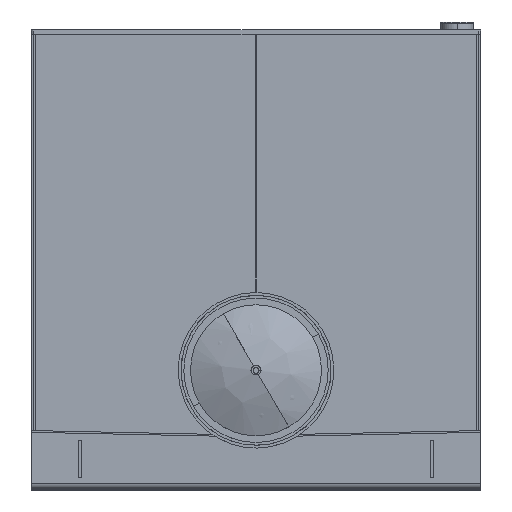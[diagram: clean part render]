
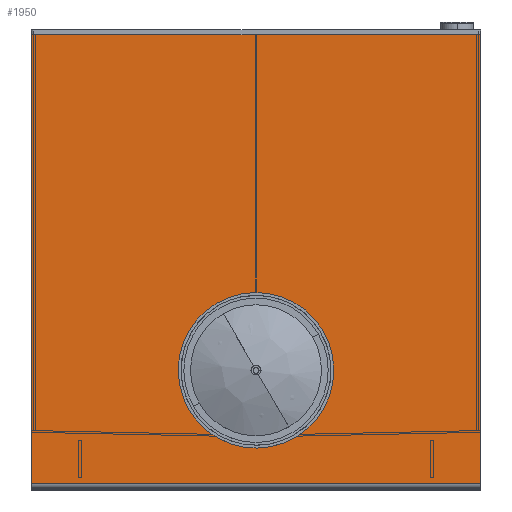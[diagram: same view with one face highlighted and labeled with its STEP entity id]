
A CAD part, top view. The second image highlights one B-rep face of the part: STEP entity #1950.
In plain terms, the highlighted planar face has unit normal (0, 0, 1) as drawn and (-1, 0, 0) by its records, which use the part's own axes.
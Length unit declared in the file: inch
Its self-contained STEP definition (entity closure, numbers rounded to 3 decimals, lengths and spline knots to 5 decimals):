
#41 = FACE_BOUND ( 'NONE', #926, .T. ) ;
#143 = AXIS2_PLACEMENT_3D ( 'NONE', #3279, #8093, #3970 ) ;
#203 = DIRECTION ( 'NONE',  ( -1., 0., 0. ) ) ;
#325 = AXIS2_PLACEMENT_3D ( 'NONE', #8297, #203, #8458 ) ;
#336 = VECTOR ( 'NONE', #6228, 39.37008 ) ;
#371 = EDGE_CURVE ( 'NONE', #4403, #1902, #3619, .T. ) ;
#497 = EDGE_CURVE ( 'NONE', #4477, #1902, #1436, .T. ) ;
#600 = DIRECTION ( 'NONE',  ( 0., 0., 1. ) ) ;
#856 = EDGE_CURVE ( 'NONE', #5472, #4477, #1524, .T. ) ;
#926 = EDGE_LOOP ( 'NONE', ( #3655, #1487 ) ) ;
#976 = AXIS2_PLACEMENT_3D ( 'NONE', #8072, #8160, #600 ) ;
#988 = FACE_OUTER_BOUND ( 'NONE', #2151, .T. ) ;
#1375 = ORIENTED_EDGE ( 'NONE', *, *, #856, .T. ) ;
#1436 = LINE ( 'NONE', #5129, #2176 ) ;
#1487 = ORIENTED_EDGE ( 'NONE', *, *, #4849, .F. ) ;
#1524 = LINE ( 'NONE', #2735, #336 ) ;
#1902 = VERTEX_POINT ( 'NONE', #6450 ) ;
#1941 = VECTOR ( 'NONE', #4350, 39.37008 ) ;
#1950 = ADVANCED_FACE ( 'NONE', ( #41, #988 ), #7384, .F. ) ;
#2151 = EDGE_LOOP ( 'NONE', ( #8670, #7063, #8214, #1375 ) ) ;
#2176 = VECTOR ( 'NONE', #4528, 39.37008 ) ;
#2550 = VERTEX_POINT ( 'NONE', #6862 ) ;
#2735 = CARTESIAN_POINT ( 'NONE',  ( -0.375, 48.125, 48. ) ) ;
#3183 = CARTESIAN_POINT ( 'NONE',  ( -0.375, 0.1875, 48. ) ) ;
#3279 = CARTESIAN_POINT ( 'NONE',  ( -0.375, 0., 48. ) ) ;
#3619 = LINE ( 'NONE', #8652, #3830 ) ;
#3655 = ORIENTED_EDGE ( 'NONE', *, *, #5607, .F. ) ;
#3830 = VECTOR ( 'NONE', #8679, 39.37008 ) ;
#3926 = CARTESIAN_POINT ( 'NONE',  ( -0.375, 48.125, 48. ) ) ;
#3970 = DIRECTION ( 'NONE',  ( 0., 0., -1. ) ) ;
#4350 = DIRECTION ( 'NONE',  ( 0., -1., 0. ) ) ;
#4403 = VERTEX_POINT ( 'NONE', #3183 ) ;
#4477 = VERTEX_POINT ( 'NONE', #7153 ) ;
#4526 = LINE ( 'NONE', #5722, #1941 ) ;
#4528 = DIRECTION ( 'NONE',  ( 0., -1., 0. ) ) ;
#4849 = EDGE_CURVE ( 'NONE', #2550, #8318, #8156, .T. ) ;
#4896 = CIRCLE ( 'NONE', #976, 7. ) ;
#5129 = CARTESIAN_POINT ( 'NONE',  ( -0.375, 0., 0. ) ) ;
#5472 = VERTEX_POINT ( 'NONE', #3926 ) ;
#5607 = EDGE_CURVE ( 'NONE', #8318, #2550, #4896, .T. ) ;
#5722 = CARTESIAN_POINT ( 'NONE',  ( -0.375, 0., 48. ) ) ;
#6228 = DIRECTION ( 'NONE',  ( 0., 0., -1. ) ) ;
#6450 = CARTESIAN_POINT ( 'NONE',  ( -0.375, 0.1875, 0. ) ) ;
#6657 = CARTESIAN_POINT ( 'NONE',  ( -0.375, 12.25, 31. ) ) ;
#6676 = EDGE_CURVE ( 'NONE', #5472, #4403, #4526, .T. ) ;
#6862 = CARTESIAN_POINT ( 'NONE',  ( -0.375, 12.25, 17. ) ) ;
#7063 = ORIENTED_EDGE ( 'NONE', *, *, #371, .F. ) ;
#7153 = CARTESIAN_POINT ( 'NONE',  ( -0.375, 48.125, 0. ) ) ;
#7384 = PLANE ( 'NONE',  #143 ) ;
#8072 = CARTESIAN_POINT ( 'NONE',  ( -0.375, 12.25, 24. ) ) ;
#8093 = DIRECTION ( 'NONE',  ( 1., 0., 0. ) ) ;
#8156 = CIRCLE ( 'NONE', #325, 7. ) ;
#8160 = DIRECTION ( 'NONE',  ( -1., 0., 0. ) ) ;
#8214 = ORIENTED_EDGE ( 'NONE', *, *, #6676, .F. ) ;
#8297 = CARTESIAN_POINT ( 'NONE',  ( -0.375, 12.25, 24. ) ) ;
#8318 = VERTEX_POINT ( 'NONE', #6657 ) ;
#8458 = DIRECTION ( 'NONE',  ( 0., 0., 1. ) ) ;
#8652 = CARTESIAN_POINT ( 'NONE',  ( -0.375, 0.1875, 48. ) ) ;
#8670 = ORIENTED_EDGE ( 'NONE', *, *, #497, .T. ) ;
#8679 = DIRECTION ( 'NONE',  ( 0., 0., -1. ) ) ;
